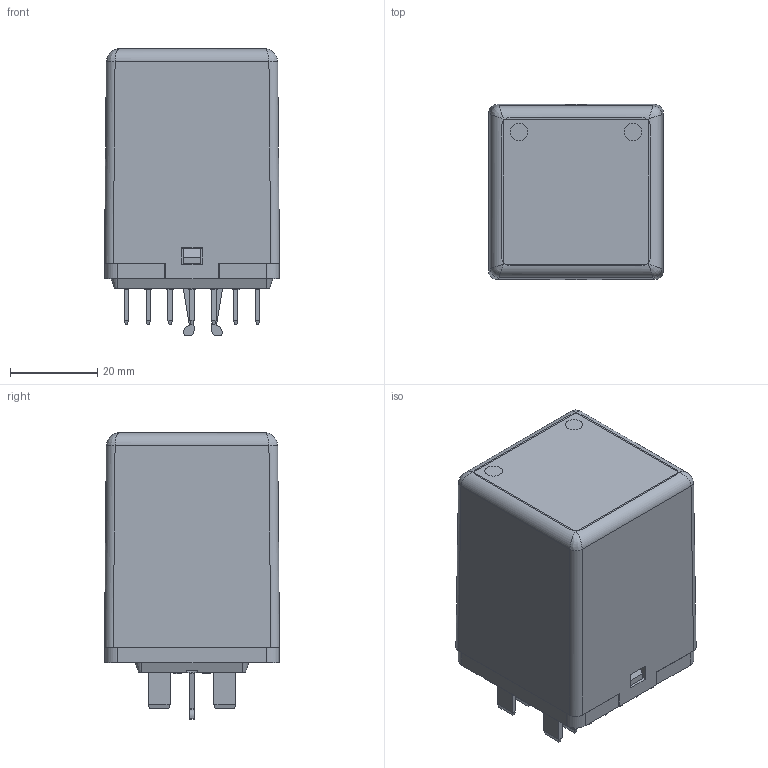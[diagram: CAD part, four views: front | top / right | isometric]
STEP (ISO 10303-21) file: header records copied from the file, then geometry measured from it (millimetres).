
FILE_DESCRIPTION((''),'2;1');
FILE_NAME('I:\TI\Bibliotheek\Inventor\Relais\FDA\FDA-U200.stp','2011-03-08T08:10:35',('oey'),(''),'Autodesk Inventor 2011','Autodesk Inventor 2011','');
FILE_SCHEMA(('AUTOMOTIVE_DESIGN { 1 0 10303 214 1 1 1 1 }'));
Length unit declared in the file: millimetre
Products named in the file (1): FDA-U200
Bounding box: 40 x 40.06 x 65.45 mm (x, y, z)
Volume: 23996.2 mm3; surface area: 28734 mm2
Topology: 1 solids, 1 shells, 1502 faces, 4258 edges, 2706 vertices
Faces by surface type: plane 910, cylinder 409, bspline 120, sphere 56, cone 6, torus 1
Full cylindrical faces by diameter (mm): 1.6 x14, 1.7 x1, 2.7 x4, 4 x2
Entity records: 50985 total; most frequent: CARTESIAN_POINT 10428, ORIENTED_EDGE 8438, DIRECTION 7757, EDGE_CURVE 4219, VECTOR 2959, LINE 2959, VERTEX_POINT 2686, AXIS2_PLACEMENT_3D 2399
